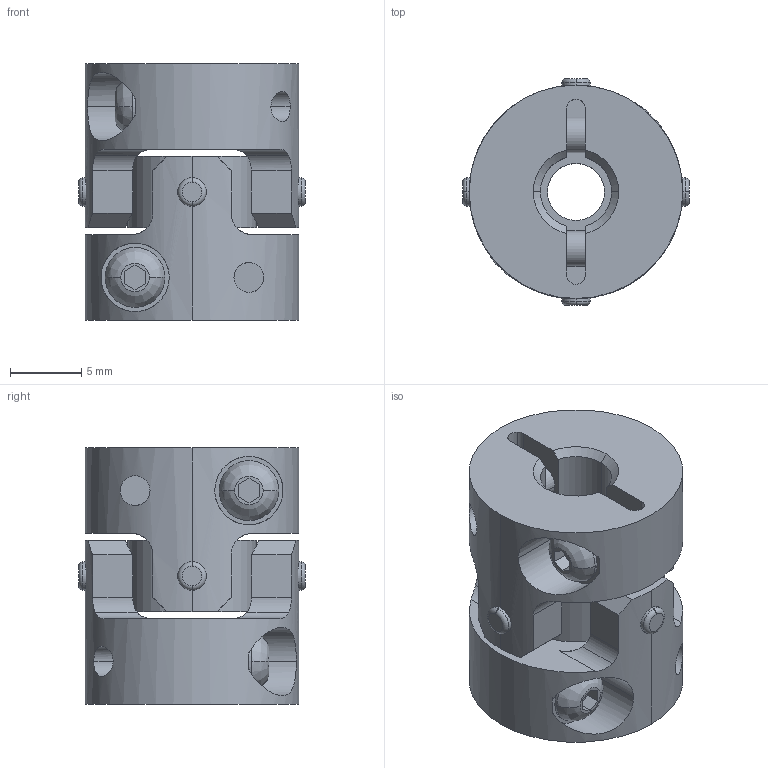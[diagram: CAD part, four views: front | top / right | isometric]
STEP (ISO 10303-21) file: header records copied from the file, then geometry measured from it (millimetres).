
FILE_DESCRIPTION((''),'2;1');
FILE_NAME('UA-15C-5×5.stp','2013-05-16T08:33:20',(''),(''),'AutoCAD STEP 2000i','AutoCAD 2000i',', , ');
FILE_SCHEMA(('CONFIG_CONTROL_DESIGN'));
Length unit declared in the file: millimetre
Products named in the file (6): UA-15C-3×3; 忣兜1; UA-1502-D03-1; BTN-M2.5; UA-1502-D03; UA15-SEN
Assembly tree (6 placements, depth 3):
  UA-15C-3×3
    忣兜1
    UA-1502-D03-1
      BTN-M2.5
    UA-1502-D03
      BTN-M2.5
    UA15-SEN
Bounding box: 15.94 x 15.94 x 18 mm (x, y, z)
Volume: 2239.6 mm3; surface area: 2356 mm2
Topology: 1 solids, 1 shells, 206 faces, 550 edges, 360 vertices
Faces by surface type: cylinder 96, plane 78, cone 16, bspline 8, torus 8
Entity records: 7955 total; most frequent: CARTESIAN_POINT 2659, ORIENTED_EDGE 1100, DIRECTION 1064, EDGE_CURVE 550, AXIS2_PLACEMENT_3D 409, VERTEX_POINT 360, VECTOR 246, LINE 246
